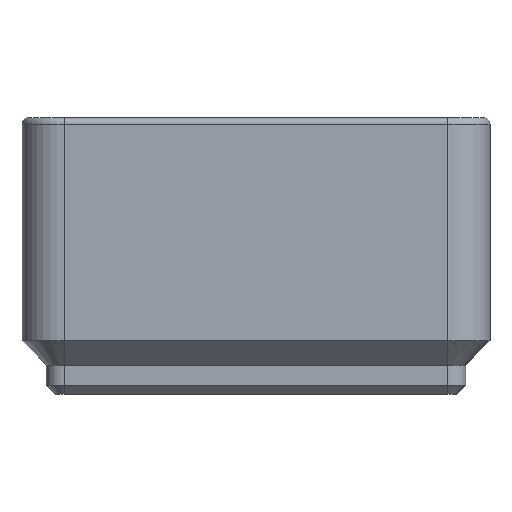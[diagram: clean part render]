
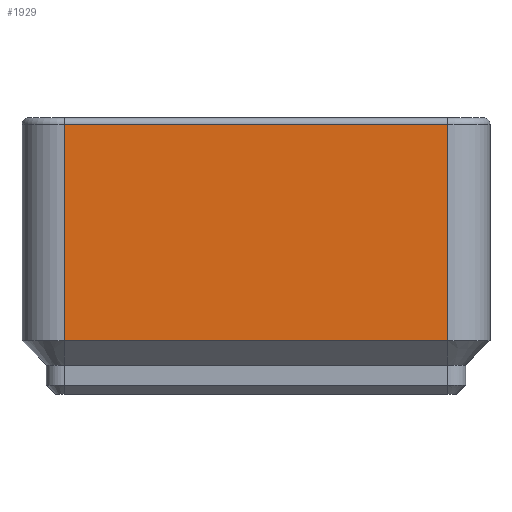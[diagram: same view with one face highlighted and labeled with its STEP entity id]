
A CAD part, front view. The second image highlights one B-rep face of the part: STEP entity #1929.
In plain terms, the highlighted planar face has unit normal (0, -1, 0).
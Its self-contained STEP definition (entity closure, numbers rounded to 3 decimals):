
#187=FACE_OUTER_BOUND('',#321,.T.);
#321=EDGE_LOOP('',(#1539,#1540,#1541,#1542));
#511=LINE('',#3031,#727);
#523=LINE('',#3086,#739);
#524=LINE('',#3090,#740);
#525=LINE('',#3091,#741);
#727=VECTOR('',#2425,10.);
#739=VECTOR('',#2489,10.);
#740=VECTOR('',#2494,10.);
#741=VECTOR('',#2495,10.);
#908=VERTEX_POINT('',#3028);
#909=VERTEX_POINT('',#3030);
#926=VERTEX_POINT('',#3085);
#927=VERTEX_POINT('',#3089);
#1108=EDGE_CURVE('',#908,#909,#511,.T.);
#1136=EDGE_CURVE('',#926,#909,#523,.T.);
#1138=EDGE_CURVE('',#927,#908,#524,.T.);
#1139=EDGE_CURVE('',#926,#927,#525,.T.);
#1539=ORIENTED_EDGE('',*,*,#1108,.F.);
#1540=ORIENTED_EDGE('',*,*,#1138,.F.);
#1541=ORIENTED_EDGE('',*,*,#1139,.F.);
#1542=ORIENTED_EDGE('',*,*,#1136,.T.);
#1835=PLANE('',#2090);
#1929=ADVANCED_FACE('',(#187),#1835,.F.);
#2090=AXIS2_PLACEMENT_3D('',#3088,#2492,#2493);
#2425=DIRECTION('',(1.,0.,0.));
#2489=DIRECTION('',(0.,0.,1.));
#2492=DIRECTION('center_axis',(0.,1.,0.));
#2493=DIRECTION('ref_axis',(-1.,0.,0.));
#2494=DIRECTION('',(0.,0.,1.));
#2495=DIRECTION('',(-1.,0.,0.));
#3028=CARTESIAN_POINT('',(4.,0.25,23.948));
#3030=CARTESIAN_POINT('',(38.,0.25,23.948));
#3031=CARTESIAN_POINT('',(21.,0.25,23.948));
#3085=CARTESIAN_POINT('',(38.,0.25,4.75));
#3086=CARTESIAN_POINT('',(38.,0.25,5.));
#3088=CARTESIAN_POINT('Origin',(38.,0.25,5.));
#3089=CARTESIAN_POINT('',(4.,0.25,4.75));
#3090=CARTESIAN_POINT('',(4.,0.25,5.));
#3091=CARTESIAN_POINT('',(38.,0.25,4.75));
